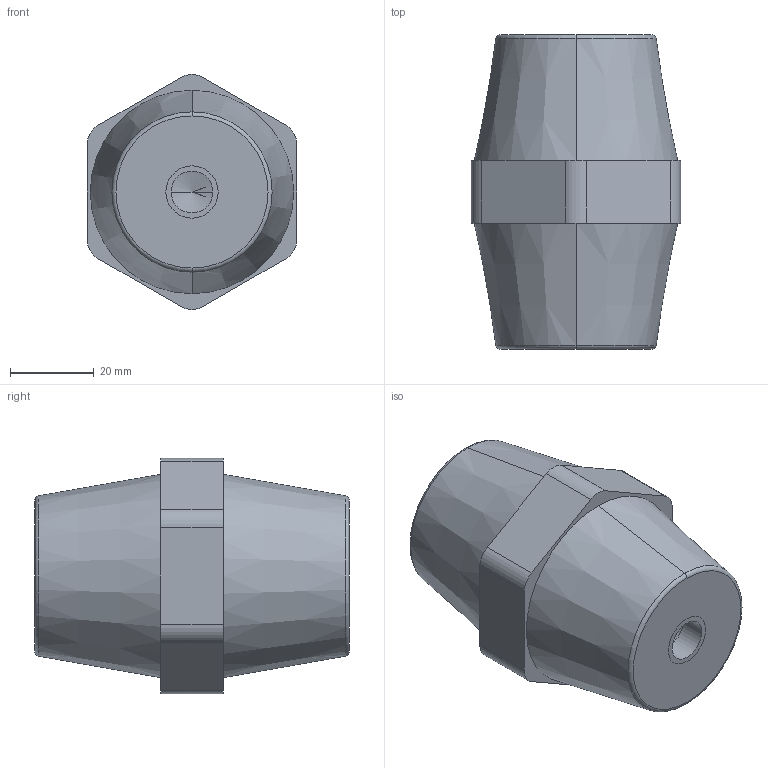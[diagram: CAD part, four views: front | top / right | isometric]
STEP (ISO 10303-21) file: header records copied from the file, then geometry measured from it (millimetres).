
FILE_DESCRIPTION (( 'STEP AP214' ), '1' );
FILE_NAME ('Isolatore 7560 50X75-M10.STEP', '2025-04-14T11:55:21', ( '' ), ( '' ), 'SwSTEP 2.0', 'SolidWorks 2020', '' );
FILE_SCHEMA (( 'AUTOMOTIVE_DESIGN' ));
Length unit declared in the file: millimetre
Products named in the file (1): Isolatore 7560 50X75-M10
Bounding box: 50 x 75 x 56.19 mm (x, y, z)
Volume: 118218.4 mm3; surface area: 18594.3 mm2
Topology: 3 solids, 3 shells, 87 faces, 191 edges, 116 vertices
Faces by surface type: cylinder 43, plane 24, cone 16, torus 4
Entity records: 2882 total; most frequent: DIRECTION 457, CARTESIAN_POINT 383, ORIENTED_EDGE 358, AXIS2_PLACEMENT_3D 190, EDGE_CURVE 179, VERTEX_POINT 116, EDGE_LOOP 105, CIRCLE 102
